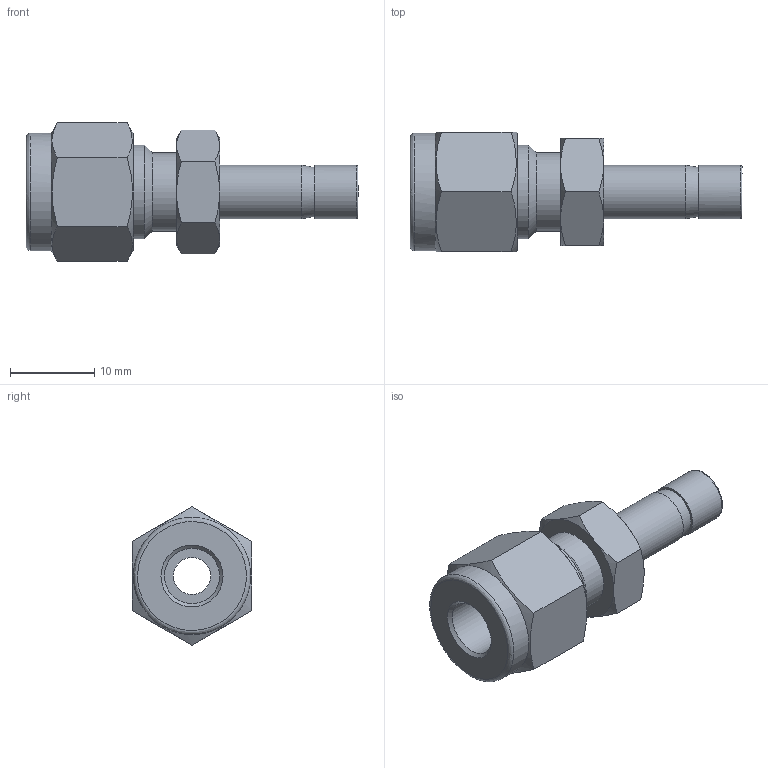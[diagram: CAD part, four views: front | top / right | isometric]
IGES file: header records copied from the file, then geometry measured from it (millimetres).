
Global section: file name: SR-4-4; native system: Autodesk Inventor 2016; preprocessor: unknown; author: DESIGNPC2; date: 20151111.165107; units: millimetre
Bounding box: 39.34 x 14.2 x 16.4 mm (x, y, z)
Volume: 2874.6 mm3; surface area: 2367.4 mm2
Topology: 1 solids, 1 shells, 45 faces, 116 edges, 78 vertices
Faces by surface type: bspline 45
